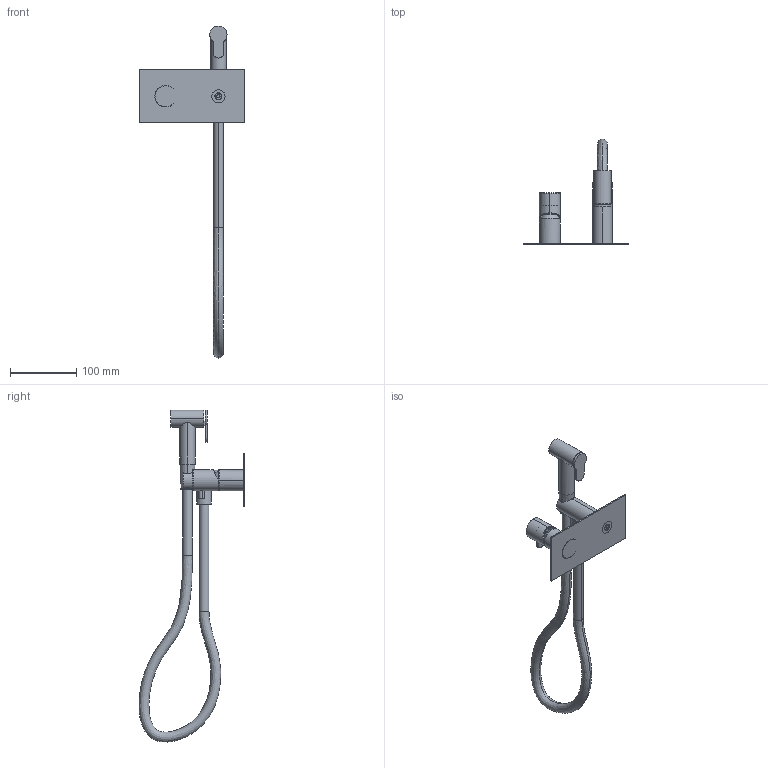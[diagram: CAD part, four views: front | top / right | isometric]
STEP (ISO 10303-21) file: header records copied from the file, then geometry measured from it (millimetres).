
FILE_DESCRIPTION((''),'2;1');
FILE_NAME('6950021_SW0001','2023-09-21T11:14:26',('carloff'),(''),'CREO PARAMETRIC BY PTC INC, 2022014','CREO PARAMETRIC BY PTC INC, 2022014','');
FILE_SCHEMA(('CONFIG_CONTROL_DESIGN'));
Length unit declared in the file: millimetre
Products named in the file (1): 6950021_SW0001
Bounding box: 160 x 160.29 x 502.58 mm (x, y, z)
Volume: 318308.9 mm3; surface area: 124530.7 mm2
Topology: 1 solids, 1 shells, 238 faces, 570 edges, 349 vertices
Faces by surface type: cylinder 98, plane 70, cone 52, bspline 12, torus 6
Entity records: 12582 total; most frequent: CARTESIAN_POINT 7067, DIRECTION 1168, ORIENTED_EDGE 1128, EDGE_CURVE 564, AXIS2_PLACEMENT_3D 468, VERTEX_POINT 349, EDGE_LOOP 263, CIRCLE 242
